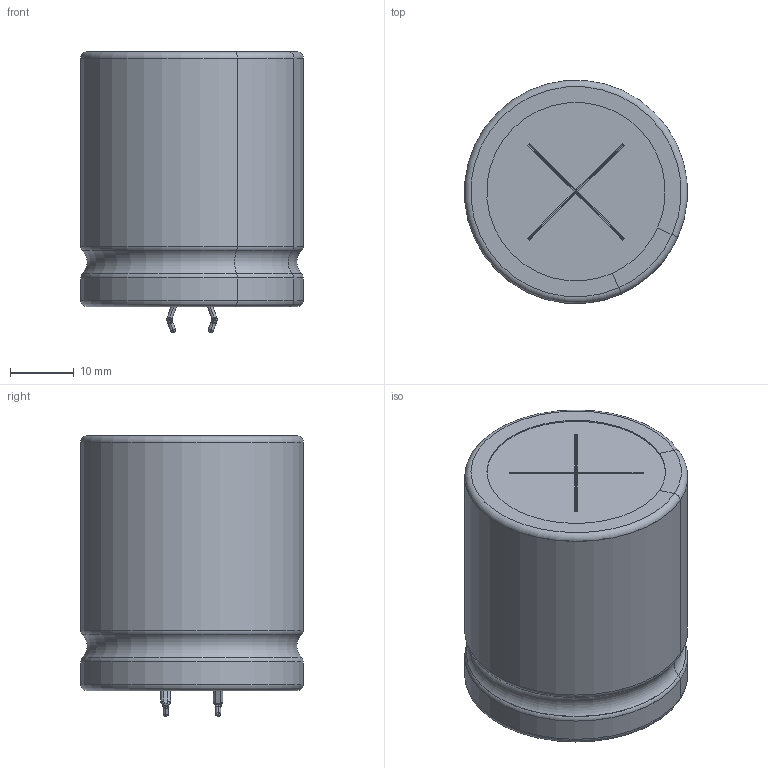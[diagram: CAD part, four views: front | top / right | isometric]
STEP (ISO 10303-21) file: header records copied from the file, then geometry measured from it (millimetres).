
FILE_DESCRIPTION(/* description */ (''),/* implementation_level */ '2;1');
FILE_NAME(/* name */ '35x40_Snap.stp',/* time_stamp */ '2017-09-11T16:33:01+09:00',/* author */ (''),/* organization */ (''),/* preprocessor_version */ 'ST-DEVELOPER v16',/* originating_system */ 'SIEMENS PLM Software NX 11.0',/* authorisation */ '');
FILE_SCHEMA (('AUTOMOTIVE_DESIGN { 1 0 10303 214 3 1 1 1 }'));
Length unit declared in the file: millimetre
Products named in the file (1): 35x40_Snap_0
Bounding box: 34.9 x 34.9 x 44.02 mm (x, y, z)
Volume: 37888.7 mm3; surface area: 16342.8 mm2
Topology: 5 solids, 5 shells, 208 faces, 523 edges, 310 vertices
Faces by surface type: cylinder 76, plane 75, torus 25, sphere 20, bspline 12
Full cylindrical faces by diameter (mm): 4 x2, 34.6 x2
Entity records: 6775 total; most frequent: CARTESIAN_POINT 1265, DIRECTION 1128, ORIENTED_EDGE 988, EDGE_CURVE 494, AXIS2_PLACEMENT_3D 437, VERTEX_POINT 310, LINE 254, VECTOR 254
